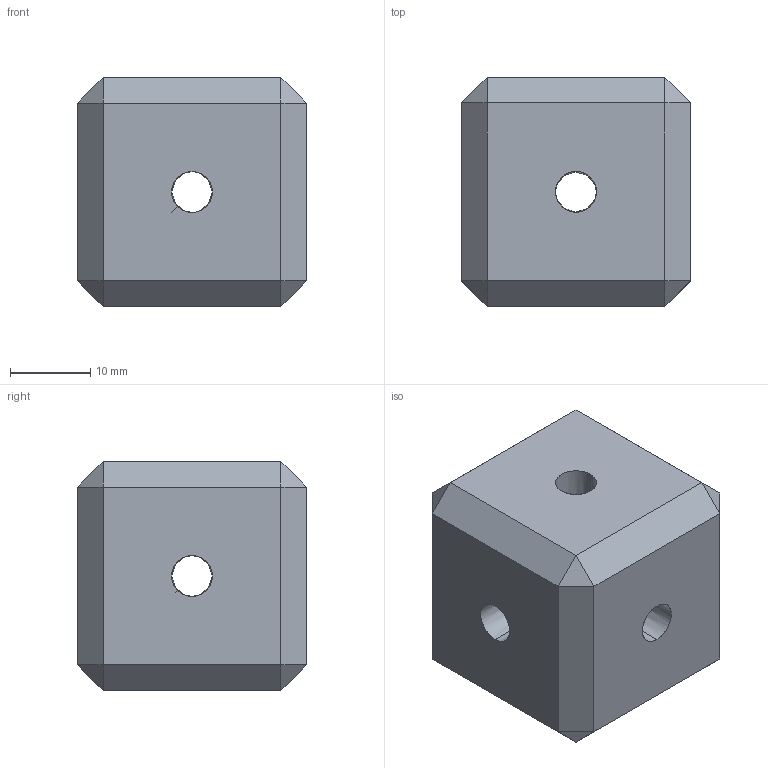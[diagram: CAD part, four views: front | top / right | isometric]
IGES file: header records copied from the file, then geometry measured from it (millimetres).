
Start section: SolidWorks IGES file using analytic representation for surfaces
Global section: file name: \\SERVER3\Design\_New Design Drive Folder List\_Design Vault\AAI\Modular Round Tube Connectors\Solidworks Models\STP Files\12202013\1.000 Inch Modular Connectors\DRP-002-0544-00.IGS; native system: SolidWorks 2013; preprocessor: SolidWorks 2013; author: tbraun; date: 131220.115916; units: inch
Bounding box: 28.57 x 28.57 x 28.57 mm (x, y, z)
Surface area: 5262 mm2 (no closed solid volume)
Topology: 0 solids, 0 shells, 38 faces, 516 edges, 516 vertices
Faces by surface type: bspline 26, revolution 12
